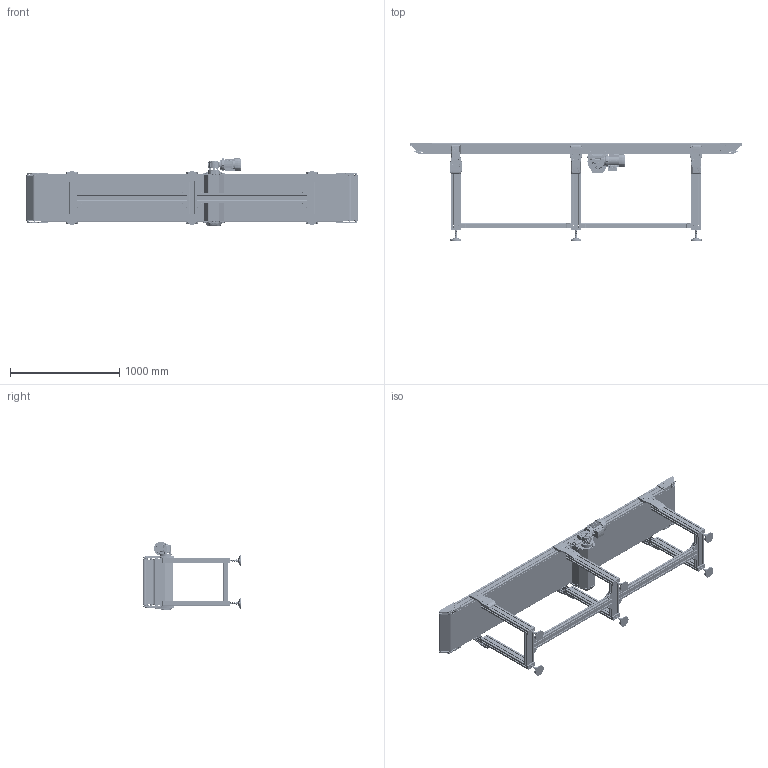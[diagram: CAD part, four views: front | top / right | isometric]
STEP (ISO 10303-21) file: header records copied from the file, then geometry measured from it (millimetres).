
FILE_DESCRIPTION (( 'STEP AP203' ), '1' );
FILE_NAME ('NASTRO_RETTILINEO_TAPPETO.step', '2026-04-20T11:47:00', ( 'Utente Windows' ), ( '' ), 'SwSTEP 2.0', 'SolidWorks 2024', '' );
FILE_SCHEMA (( 'CONFIG_CONTROL_DESIGN' ));
Length unit declared in the file: millimetre
Products named in the file (83): 30UNI7435; BLOCCO_TRAINO_50-95_CENTRALE; CH04F_DX; VITI TSEI UNI 5933_M8x16 UNI 5933; 084.814.002-1; VITI TSEI UNI 5933_M8x30 UNI 5933; 084.802.070; 2010.000.073; 084.201.019; NASTRO_RETTILINEO_TAPPETO; BLOCCO_REGGITAPPETO; 2010.000.072; VITI TE UNI 5739_M6x16 UNI 5739; 084.812.003; 084.302.016; 084.802.020; VITE_DADO_M6X12; 084.802.017_084.802.017; BLOCCO_TRAINO_50-95_CENTRALE_44; 084.405.001; 084.802.028; 084.802.036; TRAVERSA_95_Default<A macchina>; VITE_DADO_M5X12; 084.802.064; RULLO_TENSIONAMENTO_50-95_CENTRALE; TELAIO_95_STANDARD_Default<A macchina>; 084.810.003; TAPPETO_CENTRALE_2PENNE; PERNO_INF_95_PENNA; VITI TSEI UNI 5933_M8x20 UNI 5933; ANGOLARE_43; 2010.000.074; VITE_RONDELLA_M8X20; 456.015.101_456.015.101 SX; 084.302.000 DADI ALUSIC 13x13_084.302.015; BLOCCO_RINVIO_95_PENNA_SX; 084.402.005; VITI TE UNI 5739_M6x12 UNI 5739; VITI TE UNI 5739_M6x50 UNI 5739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
Assembly tree (264 placements, depth 4):
  NASTRO_RETTILINEO_TAPPETO
    TAPPETO_CENTRALE_2PENNE
    TELAIO_95_STANDARD_Default<A macchina>
    LAMIERA_2_PENNE  x2
    RULLO_95_PENNA  x4
    BLOCCO_RINVIO_95_PENNA_DX  x2
      456.015.101_456.015.101 DX
      084.802.036
      084.301.000 VITI ALUSIC_084.301.003
      VITI TE UNI 5739_M6x70 UNI 5739
      VITI TSEI UNI 5933_M8x30 UNI 5933
      084.302.016
      12UNI7435
    PERNO_SUP_95_PENNA  x2
    BLOCCO_RINVIO_95_PENNA_SX  x2
      456.015.101_456.015.101 SX
      084.802.036
      084.301.000 VITI ALUSIC_084.301.003
      VITI TE UNI 5739_M6x70 UNI 5739
      VITI TSEI UNI 5933_M8x30 UNI 5933
      084.302.016
      12UNI7435
    PERNO_INF_95_PENNA  x2
    RULLO_95_Default<A macchina>
    BLOCCO_TRAINO_50-95_CENTRALE_44
      084.802.010
      084.802.021
      084.802.004-1  x2
      084.802.003
      VITI TSEI UNI 5933_M8x20 UNI 5933  x4
      084.302.017
      VITI TE UNI 5739_M6x50 UNI 5739  x2
      DADI ESAGONALI NORMALI UNI 5588_M6 UNI 5588  x2
      VITI TE UNI 5739_M6x16 UNI 5739  x2
      RONDELLE UNI 6592_6.4x12.5 UNI 6592  x2
      VITI TSEI UNI 5933_M6x12 UNI 5933  x4
      VITI TSEI UNI 5933_M8x16 UNI 5933  x3
      VITI TE UNI 5739_M8x20 UNI 5739  x4
      084.802.070
    BLOCCO_TRAINO_50-95_CENTRALE
      084.802.004-1  x2
      084.802.020
      084.802.003
      VITI TSEI UNI 5933_M8x20 UNI 5933  x4
      VITI TSEI UNI 5933_M6x12 UNI 5933  x6
      RONDELLE UNI 6592_8.4x17 UNI 6592  x2
      VITI TE UNI 5739_M8x12 UNI 5739  x2
      VITI TE UNI 5739_M6x16 UNI 5739  x2
      084.302.017
      RONDELLE UNI 6592_6.4x12.5 UNI 6592  x2
      VITI TE UNI 5739_M6x50 UNI 5739  x2
      DADI ESAGONALI NORMALI UNI 5588_M6 UNI 5588  x2
      084.802.064
    BLOCCO_PERNO_50_CENTRALE_44
      084.814.002-1
      084.810.003
      RONDELLE FASCIA LARGA UNI 6593_6.4x24 UNI 6593
      VITI TE UNI 5739_M6x12 UNI 5739
      CHIAVETTE_A 6x6x60 UNI 6604-69
      CHIAVETTE_A 8x7x20 UNI 6604-69
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Bounding box: 3035.95 x 900 x 620.4 mm (x, y, z)
Volume: 33354785.7 mm3; surface area: 24575116.9 mm2
Topology: 513 solids, 530 shells, 22637 faces, 58571 edges, 37352 vertices
Faces by surface type: plane 9504, cylinder 6729, bspline 2656, cone 2081, torus 1508, sphere 159
Entity records: 300777 total; most frequent: CARTESIAN_POINT 114286, ORIENTED_EDGE 38284, DIRECTION 33464, EDGE_CURVE 19142, VERTEX_POINT 12348, AXIS2_PLACEMENT_3D 11594, VECTOR 10276, LINE 10276
